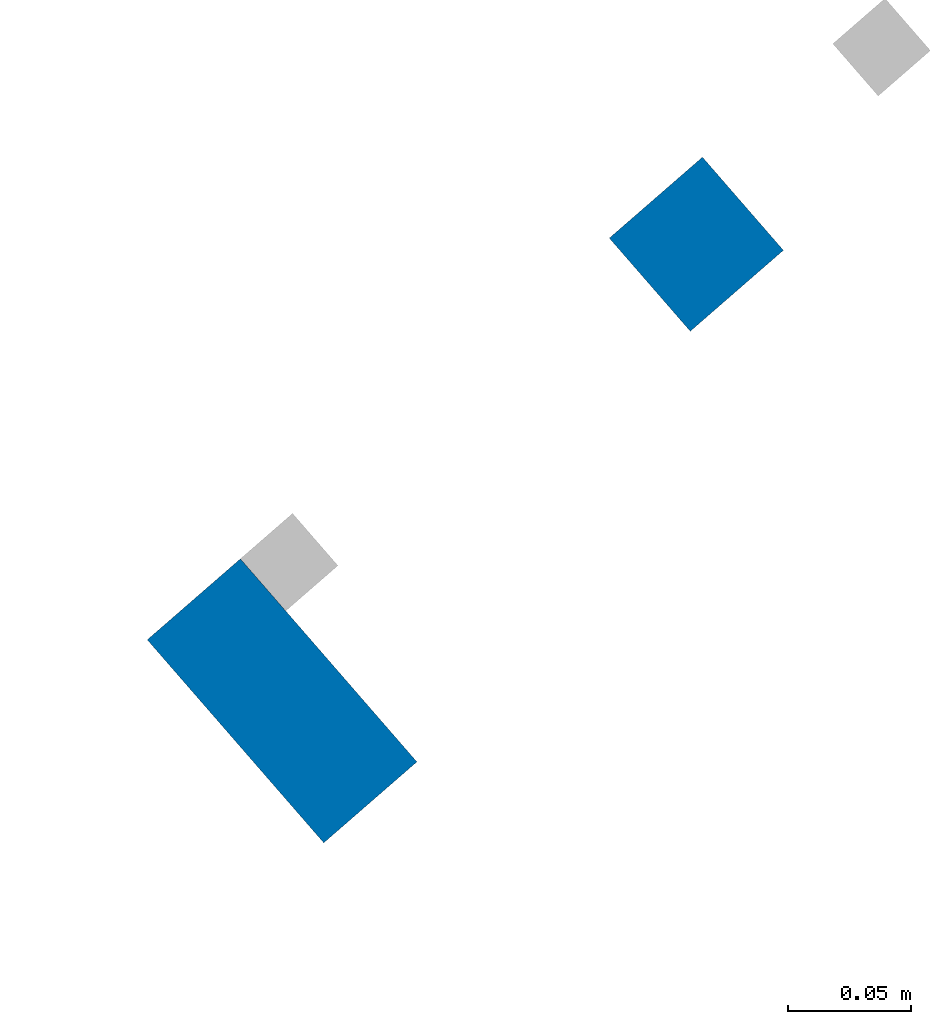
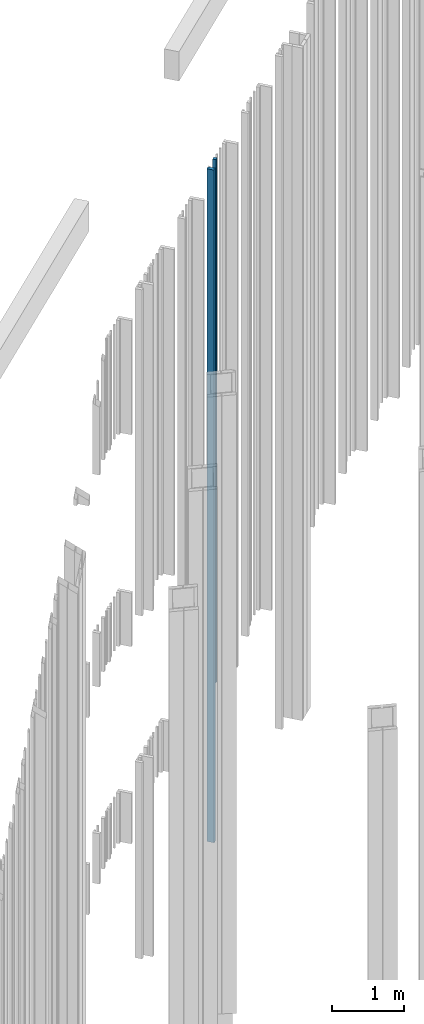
# One storey, part 216 of 390: 2 walls.
"""IFC2X3 building model written with IfcOpenShell, lengths in millimetres."""

from ifc_helpers import new_model, entity, si_unit, converted_unit, derived_unit, money_unit, direction, frame, origin_with_axes, place, context, subcontext, project, spatial, faceted_brep, material, type_object, element, save


model = new_model("IFC2X3")

# Units and contexts
model_context = context("Model", 3, precision=1e-05, world=origin_with_axes(), true_north=direction((0.0, 1.0)))
body_context = subcontext(model_context, "Body", "Model", "MODEL_VIEW")
ifc_project = project(units=[si_unit("LENGTHUNIT", "METRE", prefix="MILLI"), si_unit("AREAUNIT", "SQUARE_METRE"), si_unit("VOLUMEUNIT", "CUBIC_METRE"), converted_unit("PLANEANGLEUNIT", "DEGREE", entity("IfcPlaneAngleMeasure", 0.0174532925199), si_unit("PLANEANGLEUNIT", "RADIAN"), dimensions=[0, 0, 0, 0, 0, 0, 0]), si_unit("SOLIDANGLEUNIT", "STERADIAN"), money_unit("EUR"), converted_unit("TIMEUNIT", "Year", entity("IfcTimeMeasure", 31556926.0), si_unit("TIMEUNIT", "SECOND"), dimensions=[0, 0, 1, 0, 0, 0, 0]), si_unit("MASSUNIT", "GRAM", prefix="KILO"), si_unit("THERMODYNAMICTEMPERATUREUNIT", "DEGREE_CELSIUS"), si_unit("LUMINOUSINTENSITYUNIT", "LUMEN"), si_unit("ENERGYUNIT", "JOULE", prefix="MEGA"), derived_unit("THERMALCONDUCTANCEUNIT", [(si_unit("POWERUNIT", "WATT"), 1), (si_unit("LENGTHUNIT", "METRE"), -1), (si_unit("THERMODYNAMICTEMPERATUREUNIT", "KELVIN"), -1)]), derived_unit("SPECIFICHEATCAPACITYUNIT", [(si_unit("ENERGYUNIT", "JOULE"), 1), (si_unit("MASSUNIT", "GRAM", prefix="KILO"), -1), (si_unit("THERMODYNAMICTEMPERATUREUNIT", "KELVIN"), -1)]), derived_unit("MASSDENSITYUNIT", [(si_unit("MASSUNIT", "GRAM", prefix="KILO"), 1), (si_unit("VOLUMEUNIT", "CUBIC_METRE"), -1)])], contexts=[model_context])

# Site, building, storey
site_placement = place(None, origin_with_axes())
site = spatial("IfcSite", under=ifc_project, at=site_placement, Name="Site", CompositionType="ELEMENT")
building_placement = place(site_placement, origin_with_axes())
building = spatial("IfcBuilding", under=site, at=building_placement, Name="Building", CompositionType="ELEMENT")
storey_placement = place(building_placement, origin_with_axes())
storey = spatial("IfcBuildingStorey", under=building, at=storey_placement, Name="1 korrus", CompositionType="ELEMENT", Elevation=0.0)

# Walls
ifc_material = material(Name="Site specified")
wall_type = type_object("IfcWallType", Name="Puitfassaadi ribistik", PredefinedType="NOTDEFINED")
wall_1_placement = place(storey_placement, frame((155500.712477, 79766.2358479, -1615.0), z_axis=(0.0, 0.0, 1.0), x_axis=(-0.754709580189, -0.65605902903, 0.0)))
element("IfcWall", 1, at=wall_1_placement, inside=storey, type_object=wall_type, material=ifc_material, Name="Site specified", context=body_context, shape_type="Brep", body=[
    faceted_brep([(-25.0, -54.5, 11480.0), (-25.0, -54.5, 0.0), (25.0, -54.5, 0.0), (25.0, -54.5, 11480.0), (-25.0, 54.5, 11480.0), (-25.0, 54.5, 0.0), (25.0, 54.5, 0.0), (25.0, 54.5, 11480.0)], [[[0, 1, 2, 3]], [[4, 5, 1, 0]], [[2, 1, 5, 6]], [[3, 2, 6, 7]], [[4, 0, 3, 7]], [[7, 6, 5, 4]]]),
])
wall_2_placement = place(storey_placement, frame((155668.526712, 79951.2024197, 935.000018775), z_axis=(0.0, 0.0, 1.0), x_axis=(-0.754709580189, -0.65605902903, 0.0)))
element("IfcWall", 2, at=wall_2_placement, inside=storey, type_object=wall_type, material=ifc_material, Name="Site specified", context=body_context, shape_type="Brep", body=[
    faceted_brep([(-25.0, -25.0, 8929.99998122), (-25.0, -25.0, 0.0), (25.0, -25.0, 0.0), (25.0, -25.0, 8929.99998122), (-25.0, 25.0, 8929.99998122), (-25.0, 25.0, 0.0), (25.0, 25.0, 0.0), (25.0, 25.0, 8929.99998122)], [[[0, 1, 2, 3]], [[4, 5, 1, 0]], [[2, 1, 5, 6]], [[3, 2, 6, 7]], [[4, 0, 3, 7]], [[7, 6, 5, 4]]]),
])

save(model, "model.ifc")
